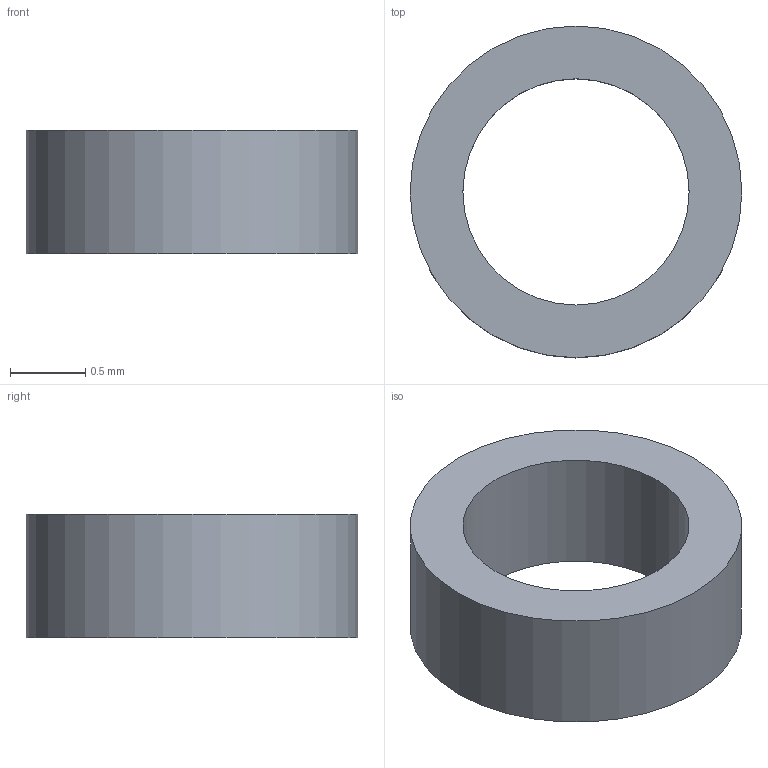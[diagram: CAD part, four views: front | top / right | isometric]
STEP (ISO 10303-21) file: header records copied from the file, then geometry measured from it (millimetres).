
FILE_DESCRIPTION(('Open CASCADE Model'),'2;1');
FILE_NAME('C27_UC1_Microphone_Acoustic_Seal','2026-09-09T20:28:18',( 'Author'),('Open CASCADE'),'Open CASCADE STEP processor 7.9', 'build123d','Unknown');
FILE_SCHEMA(('AUTOMOTIVE_DESIGN { 1 0 10303 214 1 1 1 1 }'));
Length unit declared in the file: millimetre
Products named in the file (1): C27_UC1_Microphone_Acoustic_Seal
Bounding box: 2.2 x 2.2 x 0.82 mm (x, y, z)
Volume: 1.7 mm3; surface area: 13.6 mm2
Topology: 1 solids, 1 shells, 4 faces, 6 edges, 4 vertices
Faces by surface type: cylinder 2, plane 2
Full cylindrical faces by diameter (mm): 1.5 x1, 2.2 x1
Entity records: 186 total; most frequent: DIRECTION 32, CARTESIAN_POINT 27, ORIENTED_EDGE 12, PCURVE 12, DEFINITIONAL_REPRESENTATION 12, LINE 10, VECTOR 10, AXIS2_PLACEMENT_3D 9
